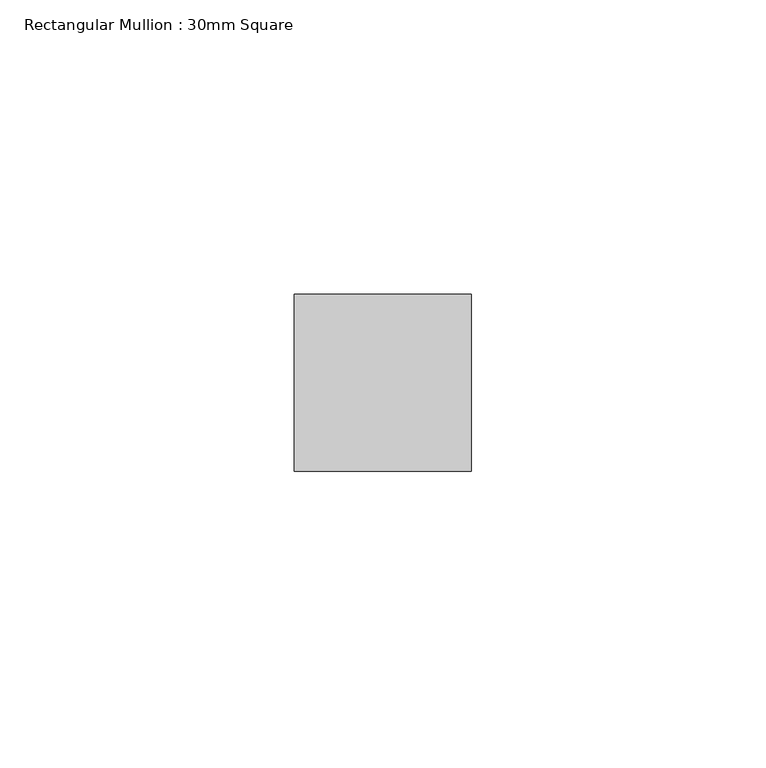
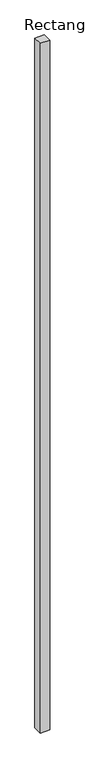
"""IFC4 building model written with IfcOpenShell, lengths in millimetres: member geometry, Rectangular Mullion : 30mm Square."""

from ifc_helpers import new_model, si_unit, frame, origin, place, context, project, spatial, polyline, outline, extrude, source, transform, mapped, element, save


def rectangular_mullion_30mm_square_5ef435d1(model_context):
    return source(origin(), model_context, "Body", "SweptSolid", [
        extrude(outline(polyline([(0.0, 15.0), (0.0, -15.0), (-30.0, -15.0), (-30.0, 15.0), (0.0, 15.0)])), frame((0.0, 0.0, -2320.0), z_axis=(0.0, 0.0, 1.0), x_axis=(1.0, 0.0, 0.0)), (0.0, 0.0, 1.0), 2320.0),
    ])


if __name__ == "__main__":
    model = new_model("IFC4")
    model_context = context("Model", 3, world=origin())
    ifc_project = project(units=[si_unit("LENGTHUNIT", "METRE", prefix="MILLI")], contexts=[model_context])
    site = spatial("IfcSite", under=ifc_project)
    building = spatial("IfcBuilding", under=site)
    placement = place(None, origin())
    rectangular_mullion_30mm_square_shape = rectangular_mullion_30mm_square_5ef435d1(model_context)
    element("IfcMember", 1, ObjectType="Rectangular Mullion : 30mm Square", at=placement, inside=building, context=model_context, shape_type="MappedRepresentation", body=[
        mapped(rectangular_mullion_30mm_square_shape, transform((0.0, 0.0, 0.0), x_axis=(1.0, 0.0, 0.0), y_axis=(0.0, 1.0, 0.0), z_axis=(0.0, 0.0, 1.0))),
    ])
    save(model, "model.ifc")
